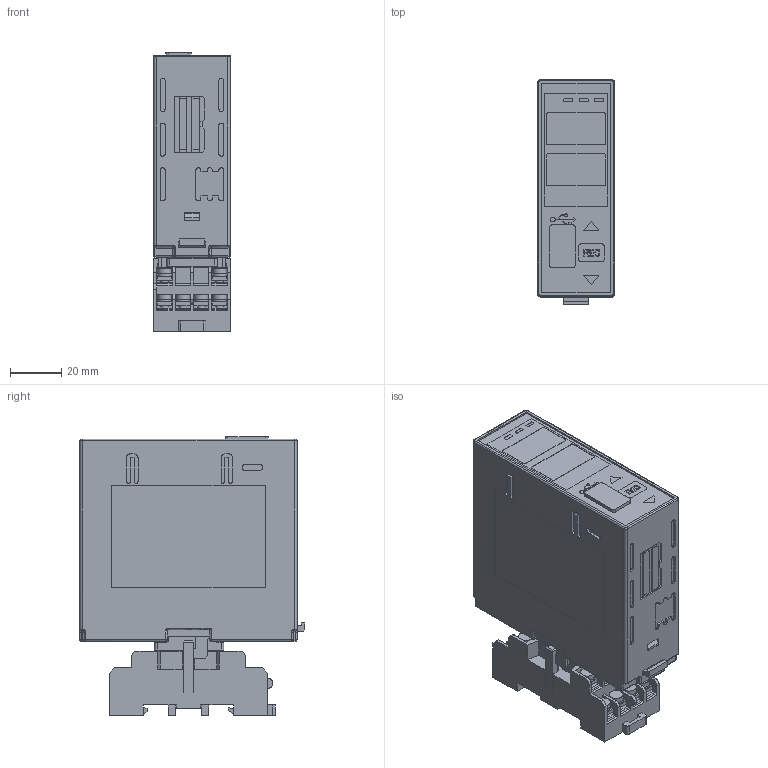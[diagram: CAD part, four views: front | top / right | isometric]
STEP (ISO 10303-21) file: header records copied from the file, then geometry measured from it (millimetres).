
FILE_DESCRIPTION (( 'STEP AP203' ), '1' );
FILE_NAME ('LUL1_251223.STEP', '2025-12-23T06:35:14', ( '' ), ( '' ), 'SwSTEP 2.0', 'SolidWorks 2022', '' );
FILE_SCHEMA (( 'CONFIG_CONTROL_DESIGN' ));
Products named in the file (1): LUL1_251223
Bounding box: 30 x 88.37 x 109 mm (x, y, z)
Volume: 232978.7 mm3; surface area: 38892 mm2
Topology: 1 solids, 1 shells, 1211 faces, 3303 edges, 2182 vertices
Faces by surface type: bspline 1211
Entity records: 44261 total; most frequent: CARTESIAN_POINT 24531, ORIENTED_EDGE 6574, EDGE_CURVE 3287, B_SPLINE_CURVE_WITH_KNOTS 2905, VERTEX_POINT 2182, EDGE_LOOP 1333, ADVANCED_FACE 1211, FACE_OUTER_BOUND 1211
